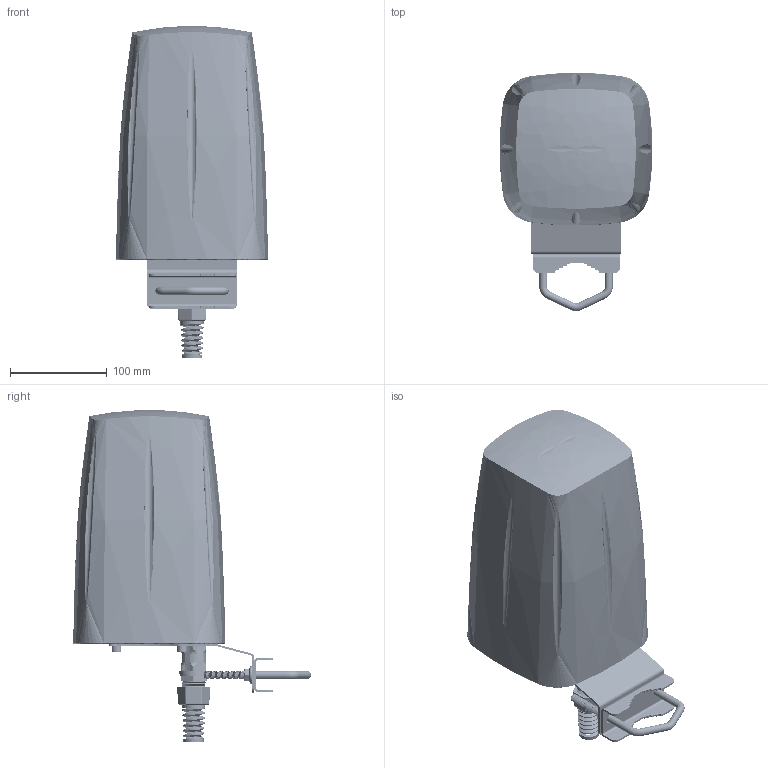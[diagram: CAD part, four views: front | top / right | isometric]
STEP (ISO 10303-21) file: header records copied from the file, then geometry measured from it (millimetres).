
FILE_DESCRIPTION(/* description */ ('WiSPOT OA 2x 0642-4V & 3x 247-7V pod RUTX11'),/* implementation_level */ '2;1');
FILE_NAME(/* name */ 'A955SUS.stp',/* time_stamp */ '2024-07-01T11:28:47+02:00',/* author */ ('mateusz'),/* organization */ ('Wireless Instruments'),/* preprocessor_version */ 'ST-DEVELOPER v20',/* originating_system */ 'Autodesk Inventor 2025',/* authorisation */ '');
FILE_SCHEMA (('AUTOMOTIVE_DESIGN { 1 0 10303 214 3 1 1 }'));
Products named in the file (43): A955SUS; DIN 7985 (H) - M4x5-H; WI-OTH-3601C; WI-BOX-4103A; WI-CSE-4103A; WI-CSE-4001A; WI-CSE-0205A; WI-CSE-0002A; WI-CSE-0303A; WI-CSE-0302A; WI-OTH-2102B; WI-MNT-5004A; WI-EMC-0199; WI-MNT-5108A; WI-MET-0275; DIN 6923 - M8; DIN 912 - M6 x 10; WI-KIT-4031Ax; DIN 985 - M3; FH-M3-8 ZI; WI-PLT-4014A; WI-MNT-2126A; WI-MNT-2126B; WI-CBL-3001A; WI-CON-3001A; WI-CON-3101A; WI-CON-3102A; WI-CON-3103A; WI-CON-3104A; WI-CON-3105A; WI-CON-3106A; WI-CON-3107A; WI-CBL-2003A; WI-CON-2101A; WI-MNT-1006A; FH4-M4-6; DIN 7985 (H) - M3x6-H; DIN 985 - M3_1; WI-OTH-3601A; WI-EMC-0285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
Assembly tree (66 placements, depth 4):
  A955SUS
    WI-OTH-2102B  x3
    WI-OTH-3601C  x4
    DIN 7985 (H) - M4x5-H
    WI-BOX-4103A
      WI-CSE-4103A
      WI-CSE-4001A
      WI-CSE-0205A
      WI-CSE-0002A
      WI-CSE-0303A
      WI-CSE-0302A  x3
      WI-OTH-2102B  x4
    WI-MNT-5004A
      WI-EMC-0199
      WI-MNT-5108A
      WI-MET-0275
      DIN 6923 - M8  x2
      DIN 912 - M6 x 10  x4
    WI-KIT-4031Ax
      FH-M3-8 ZI  x4
      DIN 985 - M3  x2
      WI-PLT-4014A
      WI-MNT-2126A  x2
      WI-MNT-2126B
    WI-CBL-3001A
      WI-CON-3001A
        WI-CON-3101A
        WI-CON-3102A
        WI-CON-3103A
        WI-CON-3104A
        WI-CON-3105A  x2
        WI-CON-3106A
        WI-CON-3107A
    WI-CBL-2003A
      WI-CON-2101A
    WI-MNT-1006A
      FH4-M4-6
      DIN 7985 (H) - M3x6-H  x2
      DIN 985 - M3_1  x2
      WI-OTH-3601A  x2
      WI-EMC-0285
      WI-EMC-0283
      WI-EMC-0284
      WI-OTH-5102A
Bounding box: 157.95 x 246.56 x 343.8 mm (x, y, z)
Volume: 648352.1 mm3; surface area: 556421.7 mm2
Topology: 68 solids, 68 shells, 3611 faces, 9432 edges, 6078 vertices
Faces by surface type: plane 1666, cylinder 870, bspline 478, cone 469, torus 106, sphere 22
Full cylindrical faces by diameter (mm): 1.5 x6, 2.2 x4, 2.204 x3, 2.4 x12, 2.459 x4, 2.6 x19, 2.7 x4, 2.729 x7, 2.75 x2, 3 x37, 3.1 x4, 3.2 x4, 3.242 x2, 3.434 x34, 3.5 x3, 3.65 x1, 3.683 x1, 4 x3, 4.02 x1, 4.1 x4, 4.2 x1, 4.394 x1, 4.521 x1, 4.6 x8, 4.917 x8, 5 x1, 5.207 x1, 5.9 x1, 6 x4, 6.146 x4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
Entity records: 154592 total; most frequent: CARTESIAN_POINT 85880, ORIENTED_EDGE 14830, DIRECTION 13085, EDGE_CURVE 7415, AXIS2_PLACEMENT_3D 4951, VERTEX_POINT 4755, LINE 3183, VECTOR 3183
